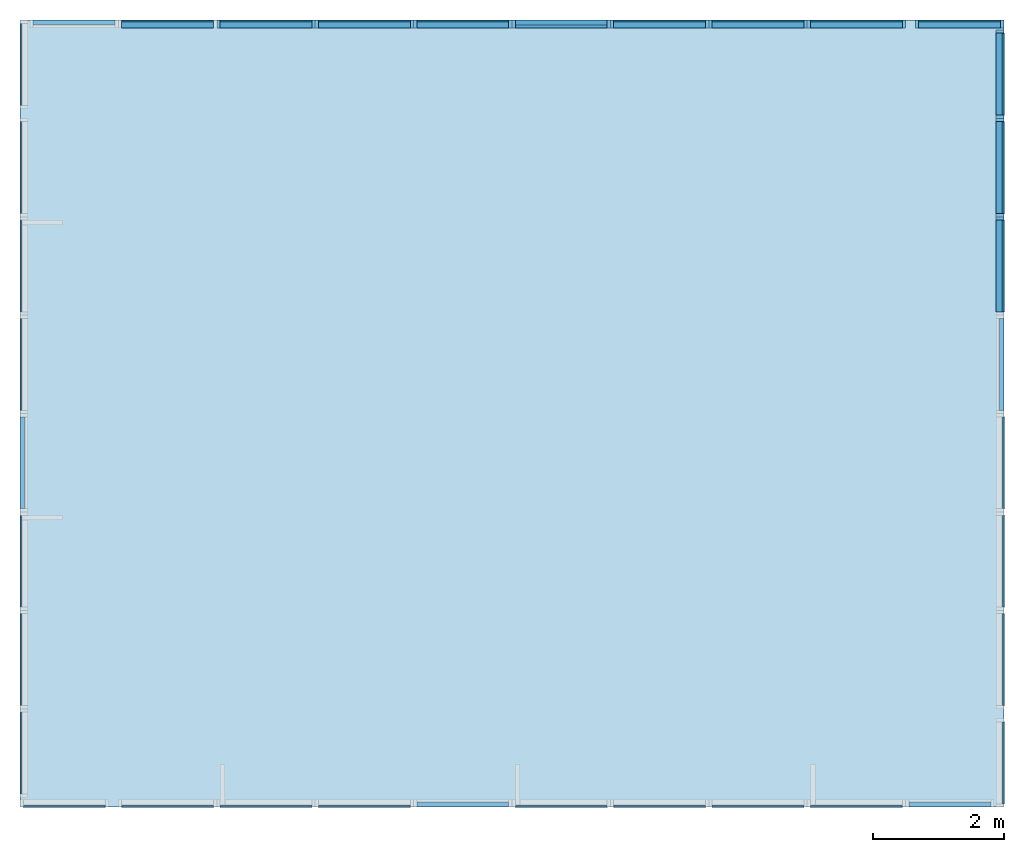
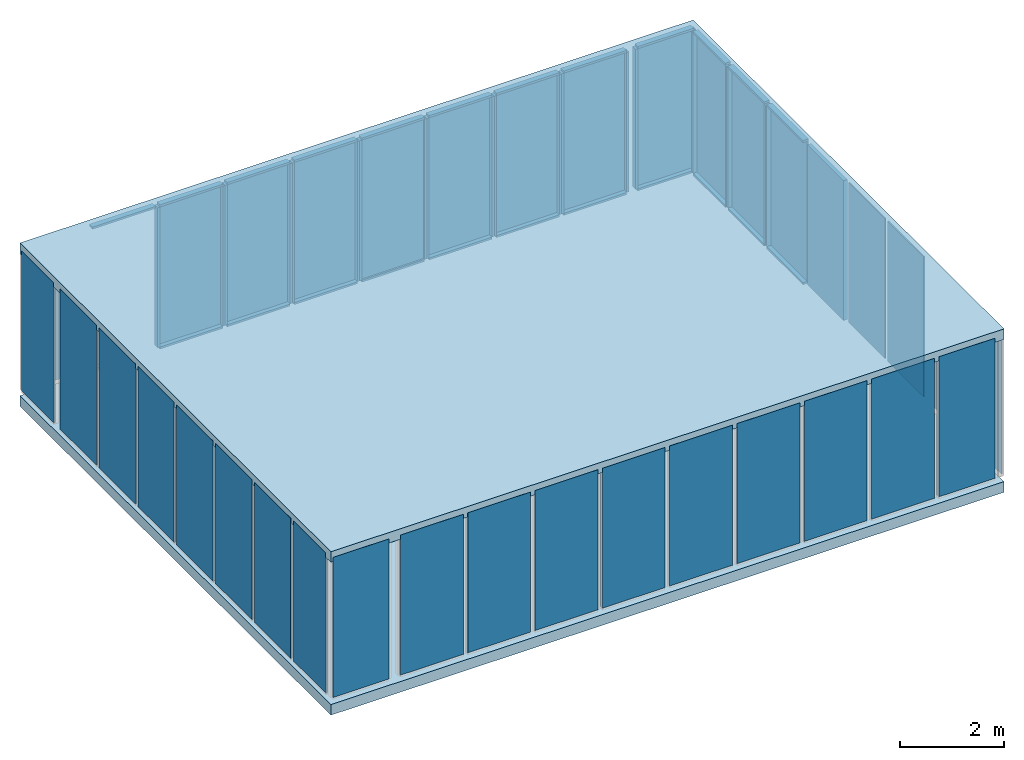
# One storey, part 2 of 2: 45 members, 36 plates, 2 slabs.
"""IFC4 building model written with IfcOpenShell, lengths in metres."""

from ifc_helpers import new_model, si_unit, frame, origin_with_axes, place, context, subcontext, project, spatial, indexed_curve, outline, extrude, material, element, save


model = new_model("IFC4")

# Units and contexts
model_context = context("Model", 3, precision=1e-05, world=origin_with_axes())
body_context = subcontext(model_context, "Body", "Model", "MODEL_VIEW")
ifc_project = project(units=[si_unit("AREAUNIT", "SQUARE_METRE"), si_unit("VOLUMEUNIT", "CUBIC_METRE"), si_unit("LENGTHUNIT", "METRE")], contexts=[model_context])

# Site, building, storey
site = spatial("IfcSite", under=ifc_project, Name="Synthetic Site")
building = spatial("IfcBuilding", under=site, Name="Complex Tower")
storey_placement = place(None, frame((0.0, 0.0, 41.4), z_axis=(0.0, 0.0, 1.0), x_axis=(1.0, 0.0, 0.0)))
storey = spatial("IfcBuildingStorey", under=building, at=storey_placement, Name="L12", Elevation=41.4)

# Members
ifc_material_1 = material(Name="Aluminium")
member_placement = place(storey_placement, frame((21.0, 11.950000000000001, 0.14999999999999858), z_axis=(0.0, 0.0, 1.0), x_axis=(6.123233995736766e-17, 1.0, 0.0)))
element("IfcMember", 1, at=member_placement, inside=storey, material=ifc_material_1, Name="CT-L12-E-006-MR", PredefinedType="MULLION", context=body_context, shape_type="SweptSolid", body=[
    extrude(outline(indexed_curve([(0.0, 0.0), (0.0, 0.12), (0.05, 0.12), (0.05, 0.0), (0.0, 0.0)], self_intersect=False)), origin_with_axes(), (0.0, 0.0, 1.0), 3.3000000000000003),
])
for number, where, z_axis, x_axis, name in (
    (2, (21.0, 10.55, 0.10000000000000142), (0.0, 0.0, 1.0), (6.123233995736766e-17, 1.0, 0.0), "CT-L12-E-006-FB"),
    (3, (21.0, 10.55, 3.4499999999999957), (0.0, 0.0, 1.0), (6.123233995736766e-17, 1.0, 0.0), "CT-L12-E-006-FT"),
):
    element("IfcMember", number, at=place(storey_placement, frame(where, z_axis=z_axis, x_axis=x_axis)), inside=storey, material=ifc_material_1, Name=name, PredefinedType="MULLION", context=body_context, shape_type="SweptSolid", body=[
        extrude(outline(indexed_curve([(0.0, 0.0), (0.0, 0.12), (1.4, 0.12), (1.4, 0.0), (0.0, 0.0)], self_intersect=False)), origin_with_axes(), (0.0, 0.0, 1.0), 0.05),
    ])
for number, where, z_axis, x_axis, name in (
    (4, (21.0, 12.0, 0.14999999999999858), (0.0, 0.0, 1.0), (6.123233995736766e-17, 1.0, 0.0), "CT-L12-E-007-ML"),
    (5, (21.0, 13.450000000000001, 0.14999999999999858), (0.0, 0.0, 1.0), (6.123233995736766e-17, 1.0, 0.0), "CT-L12-E-007-MR"),
):
    element("IfcMember", number, at=place(storey_placement, frame(where, z_axis=z_axis, x_axis=x_axis)), inside=storey, material=ifc_material_1, Name=name, PredefinedType="MULLION", context=body_context, shape_type="SweptSolid", body=[
        extrude(outline(indexed_curve([(0.0, 0.0), (0.0, 0.12), (0.05, 0.12), (0.05, 0.0), (0.0, 0.0)], self_intersect=False)), origin_with_axes(), (0.0, 0.0, 1.0), 3.3000000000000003),
    ])
for number, where, z_axis, x_axis, name in (
    (6, (21.0, 12.05, 0.10000000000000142), (0.0, 0.0, 1.0), (6.123233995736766e-17, 1.0, 0.0), "CT-L12-E-007-FB"),
    (7, (21.0, 12.05, 3.4499999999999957), (0.0, 0.0, 1.0), (6.123233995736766e-17, 1.0, 0.0), "CT-L12-E-007-FT"),
):
    element("IfcMember", number, at=place(storey_placement, frame(where, z_axis=z_axis, x_axis=x_axis)), inside=storey, material=ifc_material_1, Name=name, PredefinedType="MULLION", context=body_context, shape_type="SweptSolid", body=[
        extrude(outline(indexed_curve([(0.0, 0.0), (0.0, 0.12), (1.4, 0.12), (1.4, 0.0), (0.0, 0.0)], self_intersect=False)), origin_with_axes(), (0.0, 0.0, 1.0), 0.05),
    ])
for number, where, z_axis, x_axis, name in (
    (8, (21.0, 13.5, 0.14999999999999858), (0.0, 0.0, 1.0), (6.123233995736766e-17, 1.0, 0.0), "CT-L12-E-008-ML"),
    (9, (21.0, 14.8, 0.14999999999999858), (0.0, 0.0, 1.0), (6.123233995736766e-17, 1.0, 0.0), "CT-L12-E-008-MR"),
):
    element("IfcMember", number, at=place(storey_placement, frame(where, z_axis=z_axis, x_axis=x_axis)), inside=storey, material=ifc_material_1, Name=name, PredefinedType="MULLION", context=body_context, shape_type="SweptSolid", body=[
        extrude(outline(indexed_curve([(0.0, 0.0), (0.0, 0.12), (0.05, 0.12), (0.05, 0.0), (0.0, 0.0)], self_intersect=False)), origin_with_axes(), (0.0, 0.0, 1.0), 3.3000000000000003),
    ])
for number, where, z_axis, x_axis, name in (
    (10, (21.0, 13.55, 0.10000000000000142), (0.0, 0.0, 1.0), (6.123233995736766e-17, 1.0, 0.0), "CT-L12-E-008-FB"),
    (11, (21.0, 13.55, 3.4499999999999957), (0.0, 0.0, 1.0), (6.123233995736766e-17, 1.0, 0.0), "CT-L12-E-008-FT"),
):
    element("IfcMember", number, at=place(storey_placement, frame(where, z_axis=z_axis, x_axis=x_axis)), inside=storey, material=ifc_material_1, Name=name, PredefinedType="MULLION", context=body_context, shape_type="SweptSolid", body=[
        extrude(outline(indexed_curve([(0.0, 0.0), (0.0, 0.12), (1.25, 0.12), (1.25, 0.0), (0.0, 0.0)], self_intersect=False)), origin_with_axes(), (0.0, 0.0, 1.0), 0.05),
    ])
for number, where, z_axis, x_axis, name in (
    (12, (21.0, 15.0, 0.14999999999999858), (0.0, 0.0, 1.0), (-1.0, 1.2246467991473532e-16, 0.0), "CT-L12-N-001-ML"),
    (13, (19.7, 15.0, 0.14999999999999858), (0.0, 0.0, 1.0), (-1.0, 1.2246467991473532e-16, 0.0), "CT-L12-N-001-MR"),
):
    element("IfcMember", number, at=place(storey_placement, frame(where, z_axis=z_axis, x_axis=x_axis)), inside=storey, material=ifc_material_1, Name=name, PredefinedType="MULLION", context=body_context, shape_type="SweptSolid", body=[
        extrude(outline(indexed_curve([(0.0, 0.0), (0.0, 0.12), (0.05, 0.12), (0.05, 0.0), (0.0, 0.0)], self_intersect=False)), origin_with_axes(), (0.0, 0.0, 1.0), 3.3000000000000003),
    ])
for number, where, z_axis, x_axis, name in (
    (14, (20.95, 15.0, 0.10000000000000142), (0.0, 0.0, 1.0), (-1.0, 1.2246467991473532e-16, 0.0), "CT-L12-N-001-FB"),
    (15, (20.95, 15.0, 3.4499999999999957), (0.0, 0.0, 1.0), (-1.0, 1.2246467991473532e-16, 0.0), "CT-L12-N-001-FT"),
):
    element("IfcMember", number, at=place(storey_placement, frame(where, z_axis=z_axis, x_axis=x_axis)), inside=storey, material=ifc_material_1, Name=name, PredefinedType="MULLION", context=body_context, shape_type="SweptSolid", body=[
        extrude(outline(indexed_curve([(0.0, 0.0), (0.0, 0.12), (1.25, 0.12), (1.25, 0.0), (0.0, 0.0)], self_intersect=False)), origin_with_axes(), (0.0, 0.0, 1.0), 0.05),
    ])
for number, where, z_axis, x_axis, name in (
    (16, (19.5, 15.0, 0.14999999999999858), (0.0, 0.0, 1.0), (-1.0, 1.2246467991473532e-16, 0.0), "CT-L12-N-002-ML"),
    (17, (18.05, 15.0, 0.14999999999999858), (0.0, 0.0, 1.0), (-1.0, 1.2246467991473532e-16, 0.0), "CT-L12-N-002-MR"),
):
    element("IfcMember", number, at=place(storey_placement, frame(where, z_axis=z_axis, x_axis=x_axis)), inside=storey, material=ifc_material_1, Name=name, PredefinedType="MULLION", context=body_context, shape_type="SweptSolid", body=[
        extrude(outline(indexed_curve([(0.0, 0.0), (0.0, 0.12), (0.05, 0.12), (0.05, 0.0), (0.0, 0.0)], self_intersect=False)), origin_with_axes(), (0.0, 0.0, 1.0), 3.3000000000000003),
    ])
for number, where, z_axis, x_axis, name in (
    (18, (19.45, 15.0, 0.10000000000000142), (0.0, 0.0, 1.0), (-1.0, 1.2246467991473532e-16, 0.0), "CT-L12-N-002-FB"),
    (19, (19.45, 15.0, 3.4499999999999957), (0.0, 0.0, 1.0), (-1.0, 1.2246467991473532e-16, 0.0), "CT-L12-N-002-FT"),
):
    element("IfcMember", number, at=place(storey_placement, frame(where, z_axis=z_axis, x_axis=x_axis)), inside=storey, material=ifc_material_1, Name=name, PredefinedType="MULLION", context=body_context, shape_type="SweptSolid", body=[
        extrude(outline(indexed_curve([(0.0, 0.0), (0.0, 0.12), (1.4, 0.12), (1.4, 0.0), (0.0, 0.0)], self_intersect=False)), origin_with_axes(), (0.0, 0.0, 1.0), 0.05),
    ])
for number, where, z_axis, x_axis, name in (
    (20, (18.0, 15.0, 0.14999999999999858), (0.0, 0.0, 1.0), (-1.0, 1.2246467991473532e-16, 0.0), "CT-L12-N-003-ML"),
    (21, (16.55, 15.0, 0.14999999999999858), (0.0, 0.0, 1.0), (-1.0, 1.2246467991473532e-16, 0.0), "CT-L12-N-003-MR"),
):
    element("IfcMember", number, at=place(storey_placement, frame(where, z_axis=z_axis, x_axis=x_axis)), inside=storey, material=ifc_material_1, Name=name, PredefinedType="MULLION", context=body_context, shape_type="SweptSolid", body=[
        extrude(outline(indexed_curve([(0.0, 0.0), (0.0, 0.12), (0.05, 0.12), (0.05, 0.0), (0.0, 0.0)], self_intersect=False)), origin_with_axes(), (0.0, 0.0, 1.0), 3.3000000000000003),
    ])
for number, where, z_axis, x_axis, name in (
    (22, (17.95, 15.0, 0.10000000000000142), (0.0, 0.0, 1.0), (-1.0, 1.2246467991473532e-16, 0.0), "CT-L12-N-003-FB"),
    (23, (17.95, 15.0, 3.4499999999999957), (0.0, 0.0, 1.0), (-1.0, 1.2246467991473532e-16, 0.0), "CT-L12-N-003-FT"),
):
    element("IfcMember", number, at=place(storey_placement, frame(where, z_axis=z_axis, x_axis=x_axis)), inside=storey, material=ifc_material_1, Name=name, PredefinedType="MULLION", context=body_context, shape_type="SweptSolid", body=[
        extrude(outline(indexed_curve([(0.0, 0.0), (0.0, 0.12), (1.4, 0.12), (1.4, 0.0), (0.0, 0.0)], self_intersect=False)), origin_with_axes(), (0.0, 0.0, 1.0), 0.05),
    ])
for number, where, z_axis, x_axis, name in (
    (24, (16.5, 15.0, 0.14999999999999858), (0.0, 0.0, 1.0), (-1.0, 1.2246467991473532e-16, 0.0), "CT-L12-N-004-ML"),
    (25, (15.049999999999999, 15.0, 0.14999999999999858), (0.0, 0.0, 1.0), (-1.0, 1.2246467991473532e-16, 0.0), "CT-L12-N-004-MR"),
):
    element("IfcMember", number, at=place(storey_placement, frame(where, z_axis=z_axis, x_axis=x_axis)), inside=storey, material=ifc_material_1, Name=name, PredefinedType="MULLION", context=body_context, shape_type="SweptSolid", body=[
        extrude(outline(indexed_curve([(0.0, 0.0), (0.0, 0.12), (0.05, 0.12), (0.05, 0.0), (0.0, 0.0)], self_intersect=False)), origin_with_axes(), (0.0, 0.0, 1.0), 3.3000000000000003),
    ])
for number, where, z_axis, x_axis, name in (
    (26, (16.45, 15.0, 0.10000000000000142), (0.0, 0.0, 1.0), (-1.0, 1.2246467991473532e-16, 0.0), "CT-L12-N-004-FB"),
    (27, (16.45, 15.0, 3.4499999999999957), (0.0, 0.0, 1.0), (-1.0, 1.2246467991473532e-16, 0.0), "CT-L12-N-004-FT"),
):
    element("IfcMember", number, at=place(storey_placement, frame(where, z_axis=z_axis, x_axis=x_axis)), inside=storey, material=ifc_material_1, Name=name, PredefinedType="MULLION", context=body_context, shape_type="SweptSolid", body=[
        extrude(outline(indexed_curve([(0.0, 0.0), (0.0, 0.12), (1.4, 0.12), (1.4, 0.0), (0.0, 0.0)], self_intersect=False)), origin_with_axes(), (0.0, 0.0, 1.0), 0.05),
    ])
for number, where, z_axis, x_axis, name in (
    (28, (15.0, 15.0, 0.14999999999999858), (0.0, 0.0, 1.0), (-1.0, 1.2246467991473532e-16, 0.0), "CT-L12-N-005-ML"),
    (29, (13.549999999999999, 15.0, 0.14999999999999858), (0.0, 0.0, 1.0), (-1.0, 1.2246467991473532e-16, 0.0), "CT-L12-N-005-MR"),
):
    element("IfcMember", number, at=place(storey_placement, frame(where, z_axis=z_axis, x_axis=x_axis)), inside=storey, material=ifc_material_1, Name=name, PredefinedType="MULLION", context=body_context, shape_type="SweptSolid", body=[
        extrude(outline(indexed_curve([(0.0, 0.0), (0.0, 0.12), (0.05, 0.12), (0.05, 0.0), (0.0, 0.0)], self_intersect=False)), origin_with_axes(), (0.0, 0.0, 1.0), 3.3000000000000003),
    ])
for number, where, z_axis, x_axis, name in (
    (30, (14.95, 15.0, 0.10000000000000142), (0.0, 0.0, 1.0), (-1.0, 1.2246467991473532e-16, 0.0), "CT-L12-N-005-FB"),
    (31, (14.95, 15.0, 3.4499999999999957), (0.0, 0.0, 1.0), (-1.0, 1.2246467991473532e-16, 0.0), "CT-L12-N-005-FT"),
):
    element("IfcMember", number, at=place(storey_placement, frame(where, z_axis=z_axis, x_axis=x_axis)), inside=storey, material=ifc_material_1, Name=name, PredefinedType="MULLION", context=body_context, shape_type="SweptSolid", body=[
        extrude(outline(indexed_curve([(0.0, 0.0), (0.0, 0.12), (1.4, 0.12), (1.4, 0.0), (0.0, 0.0)], self_intersect=False)), origin_with_axes(), (0.0, 0.0, 1.0), 0.05),
    ])
for number, where, z_axis, x_axis, name in (
    (32, (13.5, 15.000000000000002, 0.14999999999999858), (0.0, 0.0, 1.0), (-1.0, 1.2246467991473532e-16, 0.0), "CT-L12-N-006-ML"),
    (33, (12.049999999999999, 15.000000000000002, 0.14999999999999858), (0.0, 0.0, 1.0), (-1.0, 1.2246467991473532e-16, 0.0), "CT-L12-N-006-MR"),
):
    element("IfcMember", number, at=place(storey_placement, frame(where, z_axis=z_axis, x_axis=x_axis)), inside=storey, material=ifc_material_1, Name=name, PredefinedType="MULLION", context=body_context, shape_type="SweptSolid", body=[
        extrude(outline(indexed_curve([(0.0, 0.0), (0.0, 0.12), (0.05, 0.12), (0.05, 0.0), (0.0, 0.0)], self_intersect=False)), origin_with_axes(), (0.0, 0.0, 1.0), 3.3000000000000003),
    ])
for number, where, z_axis, x_axis, name in (
    (34, (13.45, 15.000000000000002, 0.10000000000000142), (0.0, 0.0, 1.0), (-1.0, 1.2246467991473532e-16, 0.0), "CT-L12-N-006-FB"),
    (35, (13.45, 15.000000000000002, 3.4499999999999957), (0.0, 0.0, 1.0), (-1.0, 1.2246467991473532e-16, 0.0), "CT-L12-N-006-FT"),
):
    element("IfcMember", number, at=place(storey_placement, frame(where, z_axis=z_axis, x_axis=x_axis)), inside=storey, material=ifc_material_1, Name=name, PredefinedType="MULLION", context=body_context, shape_type="SweptSolid", body=[
        extrude(outline(indexed_curve([(0.0, 0.0), (0.0, 0.12), (1.4, 0.12), (1.4, 0.0), (0.0, 0.0)], self_intersect=False)), origin_with_axes(), (0.0, 0.0, 1.0), 0.05),
    ])
for number, where, z_axis, x_axis, name in (
    (36, (12.0, 15.000000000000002, 0.14999999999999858), (0.0, 0.0, 1.0), (-1.0, 1.2246467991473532e-16, 0.0), "CT-L12-N-007-ML"),
    (37, (10.549999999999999, 15.000000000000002, 0.14999999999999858), (0.0, 0.0, 1.0), (-1.0, 1.2246467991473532e-16, 0.0), "CT-L12-N-007-MR"),
):
    element("IfcMember", number, at=place(storey_placement, frame(where, z_axis=z_axis, x_axis=x_axis)), inside=storey, material=ifc_material_1, Name=name, PredefinedType="MULLION", context=body_context, shape_type="SweptSolid", body=[
        extrude(outline(indexed_curve([(0.0, 0.0), (0.0, 0.12), (0.05, 0.12), (0.05, 0.0), (0.0, 0.0)], self_intersect=False)), origin_with_axes(), (0.0, 0.0, 1.0), 3.3000000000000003),
    ])
for number, where, z_axis, x_axis, name in (
    (38, (11.95, 15.000000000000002, 0.10000000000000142), (0.0, 0.0, 1.0), (-1.0, 1.2246467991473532e-16, 0.0), "CT-L12-N-007-FB"),
    (39, (11.95, 15.000000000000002, 3.4499999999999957), (0.0, 0.0, 1.0), (-1.0, 1.2246467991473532e-16, 0.0), "CT-L12-N-007-FT"),
):
    element("IfcMember", number, at=place(storey_placement, frame(where, z_axis=z_axis, x_axis=x_axis)), inside=storey, material=ifc_material_1, Name=name, PredefinedType="MULLION", context=body_context, shape_type="SweptSolid", body=[
        extrude(outline(indexed_curve([(0.0, 0.0), (0.0, 0.12), (1.4, 0.12), (1.4, 0.0), (0.0, 0.0)], self_intersect=False)), origin_with_axes(), (0.0, 0.0, 1.0), 0.05),
    ])
for number, where, z_axis, x_axis, name in (
    (40, (10.5, 15.000000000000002, 0.14999999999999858), (0.0, 0.0, 1.0), (-1.0, 1.2246467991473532e-16, 0.0), "CT-L12-N-008-ML"),
    (41, (9.049999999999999, 15.000000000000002, 0.14999999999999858), (0.0, 0.0, 1.0), (-1.0, 1.2246467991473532e-16, 0.0), "CT-L12-N-008-MR"),
):
    element("IfcMember", number, at=place(storey_placement, frame(where, z_axis=z_axis, x_axis=x_axis)), inside=storey, material=ifc_material_1, Name=name, PredefinedType="MULLION", context=body_context, shape_type="SweptSolid", body=[
        extrude(outline(indexed_curve([(0.0, 0.0), (0.0, 0.12), (0.05, 0.12), (0.05, 0.0), (0.0, 0.0)], self_intersect=False)), origin_with_axes(), (0.0, 0.0, 1.0), 3.3000000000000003),
    ])
for number, where, z_axis, x_axis, name in (
    (42, (10.45, 15.000000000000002, 0.10000000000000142), (0.0, 0.0, 1.0), (-1.0, 1.2246467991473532e-16, 0.0), "CT-L12-N-008-FB"),
    (43, (10.45, 15.000000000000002, 3.4499999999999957), (0.0, 0.0, 1.0), (-1.0, 1.2246467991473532e-16, 0.0), "CT-L12-N-008-FT"),
    (44, (8.95, 15.000000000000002, 0.10000000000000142), (0.0, 0.0, 1.0), (-1.0, 1.2246467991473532e-16, 0.0), "CT-L12-N-009-FB"),
    (45, (8.95, 15.000000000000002, 3.4499999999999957), (0.0, 0.0, 1.0), (-1.0, 1.2246467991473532e-16, 0.0), "CT-L12-N-009-FT"),
):
    element("IfcMember", number, at=place(storey_placement, frame(where, z_axis=z_axis, x_axis=x_axis)), inside=storey, material=ifc_material_1, Name=name, PredefinedType="MULLION", context=body_context, shape_type="SweptSolid", body=[
        extrude(outline(indexed_curve([(0.0, 0.0), (0.0, 0.12), (1.4, 0.12), (1.4, 0.0), (0.0, 0.0)], self_intersect=False)), origin_with_axes(), (0.0, 0.0, 1.0), 0.05),
    ])

# Plates
ifc_material_2 = material(Name="Glass")
plate_1_placement = place(storey_placement, frame((6.05, 3.0, 0.14999999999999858), z_axis=(0.0, 0.0, 1.0), x_axis=(1.0, 0.0, 0.0)))
element("IfcPlate", 46, at=plate_1_placement, inside=storey, material=ifc_material_2, Name="CT-L12-S-001", PredefinedType="CURTAIN_PANEL", context=body_context, shape_type="SweptSolid", body=[
    extrude(outline(indexed_curve([(0.0, 0.0), (0.0, 0.028), (1.25, 0.028), (1.25, 0.0), (0.0, 0.0)], self_intersect=False)), origin_with_axes(), (0.0, 0.0, 1.0), 3.3000000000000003),
])
for number, where, z_axis, x_axis, name in (
    (47, (7.55, 3.0, 0.14999999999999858), (0.0, 0.0, 1.0), (1.0, 0.0, 0.0), "CT-L12-S-002"),
    (48, (9.05, 3.0, 0.14999999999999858), (0.0, 0.0, 1.0), (1.0, 0.0, 0.0), "CT-L12-S-003"),
    (49, (10.55, 3.0, 0.14999999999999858), (0.0, 0.0, 1.0), (1.0, 0.0, 0.0), "CT-L12-S-004"),
):
    element("IfcPlate", number, at=place(storey_placement, frame(where, z_axis=z_axis, x_axis=x_axis)), inside=storey, material=ifc_material_2, Name=name, PredefinedType="CURTAIN_PANEL", context=body_context, shape_type="SweptSolid", body=[
        extrude(outline(indexed_curve([(0.0, 0.0), (0.0, 0.028), (1.4, 0.028), (1.4, 0.0), (0.0, 0.0)], self_intersect=False)), origin_with_axes(), (0.0, 0.0, 1.0), 3.3000000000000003),
    ])
plate_2_placement = place(storey_placement, frame((12.05, 3.0, 0.14999999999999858), z_axis=(0.0, 0.0, 1.0), x_axis=(1.0, 0.0, 0.0)))
element("IfcPlate", 50, at=plate_2_placement, inside=storey, material=ifc_material_1, Name="CT-L12-S-005", PredefinedType="SHEET", context=body_context, shape_type="SweptSolid", body=[
    extrude(outline(indexed_curve([(0.0, 0.0), (0.0, 0.08), (1.4, 0.08), (1.4, 0.0), (0.0, 0.0)], self_intersect=False)), origin_with_axes(), (0.0, 0.0, 1.0), 3.3000000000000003),
])
for number, where, z_axis, x_axis, name in (
    (51, (13.55, 3.0, 0.14999999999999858), (0.0, 0.0, 1.0), (1.0, 0.0, 0.0), "CT-L12-S-006"),
    (52, (15.05, 3.0, 0.14999999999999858), (0.0, 0.0, 1.0), (1.0, 0.0, 0.0), "CT-L12-S-007"),
    (53, (16.55, 3.0, 0.14999999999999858), (0.0, 0.0, 1.0), (1.0, 0.0, 0.0), "CT-L12-S-008"),
    (54, (18.05, 3.0, 0.14999999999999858), (0.0, 0.0, 1.0), (1.0, 0.0, 0.0), "CT-L12-S-009"),
):
    element("IfcPlate", number, at=place(storey_placement, frame(where, z_axis=z_axis, x_axis=x_axis)), inside=storey, material=ifc_material_2, Name=name, PredefinedType="CURTAIN_PANEL", context=body_context, shape_type="SweptSolid", body=[
        extrude(outline(indexed_curve([(0.0, 0.0), (0.0, 0.028), (1.4, 0.028), (1.4, 0.0), (0.0, 0.0)], self_intersect=False)), origin_with_axes(), (0.0, 0.0, 1.0), 3.3000000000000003),
    ])
plate_3_placement = place(storey_placement, frame((19.55, 3.0, 0.14999999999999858), z_axis=(0.0, 0.0, 1.0), x_axis=(1.0, 0.0, 0.0)))
element("IfcPlate", 55, at=plate_3_placement, inside=storey, material=ifc_material_1, Name="CT-L12-S-010", PredefinedType="SHEET", context=body_context, shape_type="SweptSolid", body=[
    extrude(outline(indexed_curve([(0.0, 0.0), (0.0, 0.08), (1.25, 0.08), (1.25, 0.0), (0.0, 0.0)], self_intersect=False)), origin_with_axes(), (0.0, 0.0, 1.0), 3.3000000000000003),
])
plate_4_placement = place(storey_placement, frame((21.0, 3.05, 0.14999999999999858), z_axis=(0.0, 0.0, 1.0), x_axis=(6.123233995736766e-17, 1.0, 0.0)))
element("IfcPlate", 56, at=plate_4_placement, inside=storey, material=ifc_material_2, Name="CT-L12-E-001", PredefinedType="CURTAIN_PANEL", context=body_context, shape_type="SweptSolid", body=[
    extrude(outline(indexed_curve([(0.0, 0.0), (0.0, 0.028), (1.25, 0.028), (1.25, 0.0), (0.0, 0.0)], self_intersect=False)), origin_with_axes(), (0.0, 0.0, 1.0), 3.3000000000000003),
])
for number, where, z_axis, x_axis, name in (
    (57, (21.0, 4.55, 0.14999999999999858), (0.0, 0.0, 1.0), (6.123233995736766e-17, 1.0, 0.0), "CT-L12-E-002"),
    (58, (21.0, 6.05, 0.14999999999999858), (0.0, 0.0, 1.0), (6.123233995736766e-17, 1.0, 0.0), "CT-L12-E-003"),
    (59, (21.0, 7.55, 0.14999999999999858), (0.0, 0.0, 1.0), (6.123233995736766e-17, 1.0, 0.0), "CT-L12-E-004"),
):
    element("IfcPlate", number, at=place(storey_placement, frame(where, z_axis=z_axis, x_axis=x_axis)), inside=storey, material=ifc_material_2, Name=name, PredefinedType="CURTAIN_PANEL", context=body_context, shape_type="SweptSolid", body=[
        extrude(outline(indexed_curve([(0.0, 0.0), (0.0, 0.028), (1.4, 0.028), (1.4, 0.0), (0.0, 0.0)], self_intersect=False)), origin_with_axes(), (0.0, 0.0, 1.0), 3.3000000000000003),
    ])
plate_5_placement = place(storey_placement, frame((21.0, 9.05, 0.14999999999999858), z_axis=(0.0, 0.0, 1.0), x_axis=(6.123233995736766e-17, 1.0, 0.0)))
element("IfcPlate", 60, at=plate_5_placement, inside=storey, material=ifc_material_1, Name="CT-L12-E-005", PredefinedType="SHEET", context=body_context, shape_type="SweptSolid", body=[
    extrude(outline(indexed_curve([(0.0, 0.0), (0.0, 0.08), (1.4, 0.08), (1.4, 0.0), (0.0, 0.0)], self_intersect=False)), origin_with_axes(), (0.0, 0.0, 1.0), 3.3000000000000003),
])
for number, where, z_axis, x_axis, name in (
    (61, (21.0, 10.55, 0.14999999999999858), (0.0, 0.0, 1.0), (6.123233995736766e-17, 1.0, 0.0), "CT-L12-E-006"),
    (62, (21.0, 12.05, 0.14999999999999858), (0.0, 0.0, 1.0), (6.123233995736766e-17, 1.0, 0.0), "CT-L12-E-007"),
):
    element("IfcPlate", number, at=place(storey_placement, frame(where, z_axis=z_axis, x_axis=x_axis)), inside=storey, material=ifc_material_2, Name=name, PredefinedType="CURTAIN_PANEL", context=body_context, shape_type="SweptSolid", body=[
        extrude(outline(indexed_curve([(0.0, 0.0), (0.0, 0.028), (1.4, 0.028), (1.4, 0.0), (0.0, 0.0)], self_intersect=False)), origin_with_axes(), (0.0, 0.0, 1.0), 3.3000000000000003),
    ])
for number, where, z_axis, x_axis, name in (
    (63, (21.0, 13.55, 0.14999999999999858), (0.0, 0.0, 1.0), (6.123233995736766e-17, 1.0, 0.0), "CT-L12-E-008"),
    (64, (20.95, 15.0, 0.14999999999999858), (0.0, 0.0, 1.0), (-1.0, 1.2246467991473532e-16, 0.0), "CT-L12-N-001"),
):
    element("IfcPlate", number, at=place(storey_placement, frame(where, z_axis=z_axis, x_axis=x_axis)), inside=storey, material=ifc_material_2, Name=name, PredefinedType="CURTAIN_PANEL", context=body_context, shape_type="SweptSolid", body=[
        extrude(outline(indexed_curve([(0.0, 0.0), (0.0, 0.028), (1.25, 0.028), (1.25, 0.0), (0.0, 0.0)], self_intersect=False)), origin_with_axes(), (0.0, 0.0, 1.0), 3.3000000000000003),
    ])
for number, where, z_axis, x_axis, name in (
    (65, (19.45, 15.0, 0.14999999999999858), (0.0, 0.0, 1.0), (-1.0, 1.2246467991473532e-16, 0.0), "CT-L12-N-002"),
    (66, (17.95, 15.0, 0.14999999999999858), (0.0, 0.0, 1.0), (-1.0, 1.2246467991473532e-16, 0.0), "CT-L12-N-003"),
    (67, (16.45, 15.0, 0.14999999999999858), (0.0, 0.0, 1.0), (-1.0, 1.2246467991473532e-16, 0.0), "CT-L12-N-004"),
):
    element("IfcPlate", number, at=place(storey_placement, frame(where, z_axis=z_axis, x_axis=x_axis)), inside=storey, material=ifc_material_2, Name=name, PredefinedType="CURTAIN_PANEL", context=body_context, shape_type="SweptSolid", body=[
        extrude(outline(indexed_curve([(0.0, 0.0), (0.0, 0.028), (1.4, 0.028), (1.4, 0.0), (0.0, 0.0)], self_intersect=False)), origin_with_axes(), (0.0, 0.0, 1.0), 3.3000000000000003),
    ])
plate_6_placement = place(storey_placement, frame((14.95, 15.0, 0.14999999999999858), z_axis=(0.0, 0.0, 1.0), x_axis=(-1.0, 1.2246467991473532e-16, 0.0)))
element("IfcPlate", 68, at=plate_6_placement, inside=storey, material=ifc_material_1, Name="CT-L12-N-005", PredefinedType="SHEET", context=body_context, shape_type="SweptSolid", body=[
    extrude(outline(indexed_curve([(0.0, 0.0), (0.0, 0.08), (1.4, 0.08), (1.4, 0.0), (0.0, 0.0)], self_intersect=False)), origin_with_axes(), (0.0, 0.0, 1.0), 3.3000000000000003),
])
for number, where, z_axis, x_axis, name in (
    (69, (13.45, 15.000000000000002, 0.14999999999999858), (0.0, 0.0, 1.0), (-1.0, 1.2246467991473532e-16, 0.0), "CT-L12-N-006"),
    (70, (11.95, 15.000000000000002, 0.14999999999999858), (0.0, 0.0, 1.0), (-1.0, 1.2246467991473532e-16, 0.0), "CT-L12-N-007"),
    (71, (10.45, 15.000000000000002, 0.14999999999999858), (0.0, 0.0, 1.0), (-1.0, 1.2246467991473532e-16, 0.0), "CT-L12-N-008"),
    (72, (8.95, 15.000000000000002, 0.14999999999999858), (0.0, 0.0, 1.0), (-1.0, 1.2246467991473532e-16, 0.0), "CT-L12-N-009"),
):
    element("IfcPlate", number, at=place(storey_placement, frame(where, z_axis=z_axis, x_axis=x_axis)), inside=storey, material=ifc_material_2, Name=name, PredefinedType="CURTAIN_PANEL", context=body_context, shape_type="SweptSolid", body=[
        extrude(outline(indexed_curve([(0.0, 0.0), (0.0, 0.028), (1.4, 0.028), (1.4, 0.0), (0.0, 0.0)], self_intersect=False)), origin_with_axes(), (0.0, 0.0, 1.0), 3.3000000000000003),
    ])
plate_7_placement = place(storey_placement, frame((7.449999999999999, 15.000000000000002, 0.14999999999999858), z_axis=(0.0, 0.0, 1.0), x_axis=(-1.0, 1.2246467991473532e-16, 0.0)))
element("IfcPlate", 73, at=plate_7_placement, inside=storey, material=ifc_material_1, Name="CT-L12-N-010", PredefinedType="SHEET", context=body_context, shape_type="SweptSolid", body=[
    extrude(outline(indexed_curve([(0.0, 0.0), (0.0, 0.08), (1.25, 0.08), (1.25, 0.0), (0.0, 0.0)], self_intersect=False)), origin_with_axes(), (0.0, 0.0, 1.0), 3.3000000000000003),
])
plate_8_placement = place(storey_placement, frame((6.0, 14.95, 0.14999999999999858), z_axis=(0.0, 0.0, 1.0), x_axis=(-1.8369701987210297e-16, -1.0, 0.0)))
element("IfcPlate", 74, at=plate_8_placement, inside=storey, material=ifc_material_2, Name="CT-L12-W-001", PredefinedType="CURTAIN_PANEL", context=body_context, shape_type="SweptSolid", body=[
    extrude(outline(indexed_curve([(0.0, 0.0), (0.0, 0.028), (1.25, 0.028), (1.25, 0.0), (0.0, 0.0)], self_intersect=False)), origin_with_axes(), (0.0, 0.0, 1.0), 3.3000000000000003),
])
for number, where, z_axis, x_axis, name in (
    (75, (6.0, 13.45, 0.14999999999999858), (0.0, 0.0, 1.0), (-1.8369701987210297e-16, -1.0, 0.0), "CT-L12-W-002"),
    (76, (5.999999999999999, 11.95, 0.14999999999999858), (0.0, 0.0, 1.0), (-1.8369701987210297e-16, -1.0, 0.0), "CT-L12-W-003"),
    (77, (5.999999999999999, 10.45, 0.14999999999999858), (0.0, 0.0, 1.0), (-1.8369701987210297e-16, -1.0, 0.0), "CT-L12-W-004"),
):
    element("IfcPlate", number, at=place(storey_placement, frame(where, z_axis=z_axis, x_axis=x_axis)), inside=storey, material=ifc_material_2, Name=name, PredefinedType="CURTAIN_PANEL", context=body_context, shape_type="SweptSolid", body=[
        extrude(outline(indexed_curve([(0.0, 0.0), (0.0, 0.028), (1.4, 0.028), (1.4, 0.0), (0.0, 0.0)], self_intersect=False)), origin_with_axes(), (0.0, 0.0, 1.0), 3.3000000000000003),
    ])
plate_9_placement = place(storey_placement, frame((5.999999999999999, 8.95, 0.14999999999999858), z_axis=(0.0, 0.0, 1.0), x_axis=(-1.8369701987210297e-16, -1.0, 0.0)))
element("IfcPlate", 78, at=plate_9_placement, inside=storey, material=ifc_material_1, Name="CT-L12-W-005", PredefinedType="SHEET", context=body_context, shape_type="SweptSolid", body=[
    extrude(outline(indexed_curve([(0.0, 0.0), (0.0, 0.08), (1.4, 0.08), (1.4, 0.0), (0.0, 0.0)], self_intersect=False)), origin_with_axes(), (0.0, 0.0, 1.0), 3.3000000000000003),
])
for number, where, z_axis, x_axis, name in (
    (79, (5.999999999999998, 7.45, 0.14999999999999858), (0.0, 0.0, 1.0), (-1.8369701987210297e-16, -1.0, 0.0), "CT-L12-W-006"),
    (80, (5.999999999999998, 5.949999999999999, 0.14999999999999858), (0.0, 0.0, 1.0), (-1.8369701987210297e-16, -1.0, 0.0), "CT-L12-W-007"),
):
    element("IfcPlate", number, at=place(storey_placement, frame(where, z_axis=z_axis, x_axis=x_axis)), inside=storey, material=ifc_material_2, Name=name, PredefinedType="CURTAIN_PANEL", context=body_context, shape_type="SweptSolid", body=[
        extrude(outline(indexed_curve([(0.0, 0.0), (0.0, 0.028), (1.4, 0.028), (1.4, 0.0), (0.0, 0.0)], self_intersect=False)), origin_with_axes(), (0.0, 0.0, 1.0), 3.3000000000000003),
    ])
plate_10_placement = place(storey_placement, frame((5.999999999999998, 4.449999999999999, 0.14999999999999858), z_axis=(0.0, 0.0, 1.0), x_axis=(-1.8369701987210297e-16, -1.0, 0.0)))
element("IfcPlate", 81, at=plate_10_placement, inside=storey, material=ifc_material_2, Name="CT-L12-W-008", PredefinedType="CURTAIN_PANEL", context=body_context, shape_type="SweptSolid", body=[
    extrude(outline(indexed_curve([(0.0, 0.0), (0.0, 0.028), (1.25, 0.028), (1.25, 0.0), (0.0, 0.0)], self_intersect=False)), origin_with_axes(), (0.0, 0.0, 1.0), 3.3000000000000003),
])

# Slabs
ifc_material_3 = material(Name="Concrete")
slab_1_placement = place(storey_placement, frame((6.0, 3.0, -0.25), z_axis=(0.0, 0.0, 1.0), x_axis=(1.0, 0.0, 0.0)))
element("IfcSlab", 82, at=slab_1_placement, inside=storey, material=ifc_material_3, Name="CT-SLAB-12", PredefinedType="FLOOR", context=body_context, shape_type="SweptSolid", body=[
    extrude(outline(indexed_curve([(0.0, 0.0), (0.0, 12.0), (15.0, 12.0), (15.0, 0.0), (0.0, 0.0)], self_intersect=False)), origin_with_axes(), (0.0, 0.0, 1.0), 0.25),
])
slab_2_placement = place(storey_placement, frame((6.0, 3.0, 3.3500000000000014), z_axis=(0.0, 0.0, 1.0), x_axis=(1.0, 0.0, 0.0)))
element("IfcSlab", 83, at=slab_2_placement, inside=storey, material=ifc_material_3, Name="CT-ROOF", PredefinedType="ROOF", context=body_context, shape_type="SweptSolid", body=[
    extrude(outline(indexed_curve([(0.0, 0.0), (0.0, 12.0), (15.0, 12.0), (15.0, 0.0), (0.0, 0.0)], self_intersect=False)), origin_with_axes(), (0.0, 0.0, 1.0), 0.25),
])

save(model, "model.ifc")
